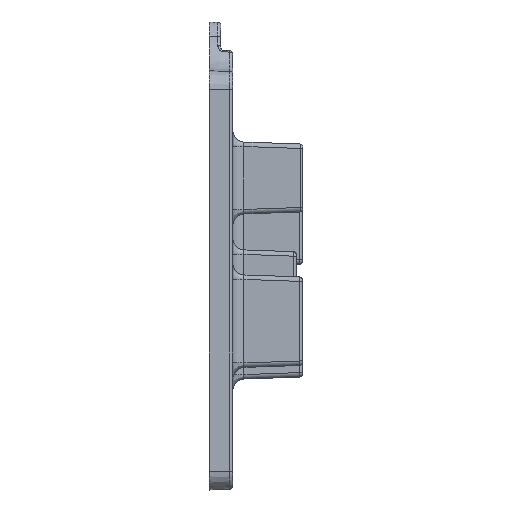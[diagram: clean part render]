
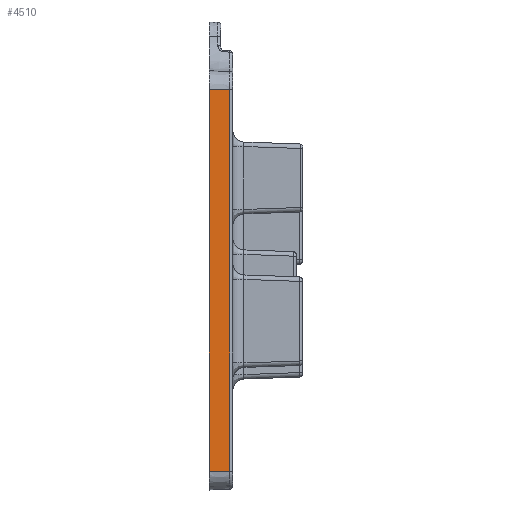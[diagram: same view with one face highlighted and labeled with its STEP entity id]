
A CAD part, left-side view. The second image highlights one B-rep face of the part: STEP entity #4510.
In plain terms, the highlighted planar face has unit normal (-0.999, -0.035, 0).
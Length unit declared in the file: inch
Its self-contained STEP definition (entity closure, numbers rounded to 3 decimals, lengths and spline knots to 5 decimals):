
#811=DIRECTION('',(0.,0.,1.));
#812=VECTOR('',#811,2.548);
#813=CARTESIAN_POINT('',(-3.674,0.15748,-0.0502));
#814=LINE('',#813,#812);
#1044=DIRECTION('',(-0.035,0.999,0.));
#1045=VECTOR('',#1044,0.13857);
#1046=CARTESIAN_POINT('',(-3.66916,0.019,
2.4978));
#1047=LINE('',#1046,#1045);
#1048=DIRECTION('',(0.,0.,-1.));
#1049=VECTOR('',#1048,2.548);
#1050=CARTESIAN_POINT('',(-3.66916,0.019,
2.4978));
#1051=LINE('',#1050,#1049);
#1052=DIRECTION('',(-0.035,0.999,0.));
#1053=VECTOR('',#1052,0.13857);
#1054=CARTESIAN_POINT('',(-3.66916,0.019,
-0.0502));
#1055=LINE('',#1054,#1053);
#2945=CARTESIAN_POINT('',(-3.66916,0.019,2.4978));
#2946=VERTEX_POINT('',#2945);
#2949=CARTESIAN_POINT('',(-3.66916,0.019,
-0.0502));
#2950=VERTEX_POINT('',#2949);
#3121=CARTESIAN_POINT('',(-3.674,0.15748,-0.0502));
#3122=VERTEX_POINT('',#3121);
#3123=CARTESIAN_POINT('',(-3.674,0.15748,2.4978));
#3124=VERTEX_POINT('',#3123);
#4498=CARTESIAN_POINT('',(-3.674,0.15748,-1.11515));
#4499=DIRECTION('',(-0.999,-0.035,0.));
#4500=DIRECTION('',(0.,0.,-1.));
#4501=AXIS2_PLACEMENT_3D('',#4498,#4499,#4500);
#4502=PLANE('',#4501);
#4503=ORIENTED_EDGE('',*,*,#3725,.T.);
#4505=ORIENTED_EDGE('',*,*,#4504,.T.);
#4506=ORIENTED_EDGE('',*,*,#4173,.T.);
#4507=ORIENTED_EDGE('',*,*,#4491,.F.);
#4508=EDGE_LOOP('',(#4503,#4505,#4506,#4507));
#4509=FACE_OUTER_BOUND('',#4508,.F.);
#4510=ADVANCED_FACE('',(#4509),#4502,.T.);
#3725=EDGE_CURVE('',#2946,#2950,#1051,.T.);
#4173=EDGE_CURVE('',#3122,#3124,#814,.T.);
#4491=EDGE_CURVE('',#2946,#3124,#1047,.T.);
#4504=EDGE_CURVE('',#2950,#3122,#1055,.T.);
